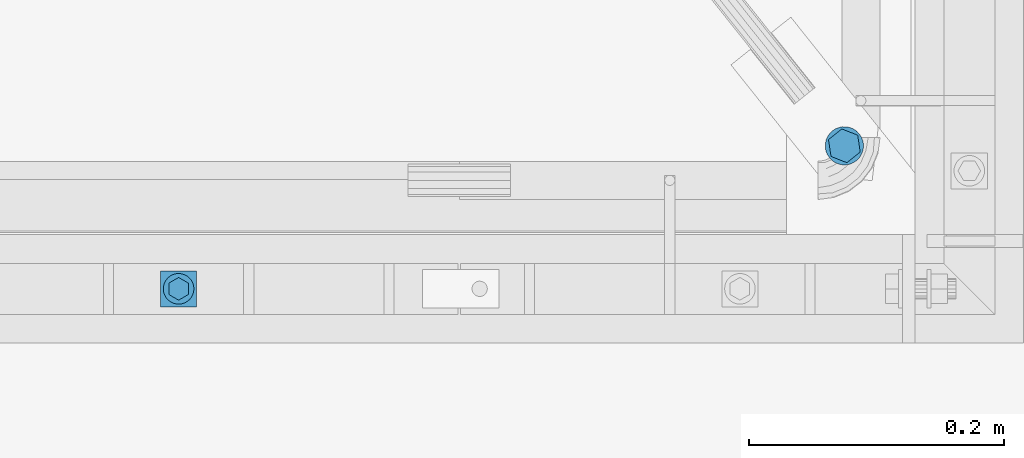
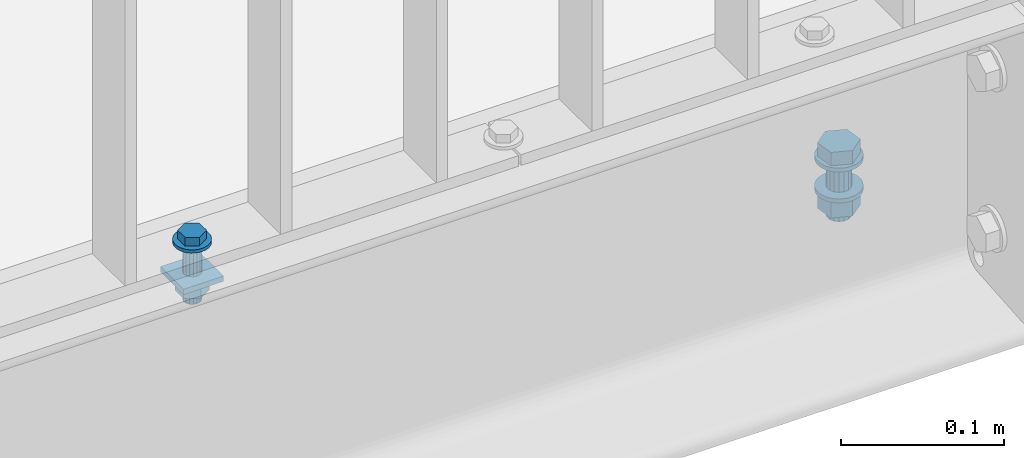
# One storey, part 102 of 145: 2 mechanical fasteners.
"""IFC2X3 building model written with IfcOpenShell, lengths in millimetres."""

import ifcopenshell
import ifcopenshell.guid

model = None  # the IFC model being written
_history = None  # IfcOwnerHistory: only IFC2X3 demands one
_inside = {}  # id of a spatial element -> (the spatial element, [elements in it])
_under = {}  # id of a project, library or spatial element -> (it, [spatial elements below it])
_declared = {}  # id of a project -> (the project, [libraries it declares])
_typed = {}  # id of a type object -> (the type object, [elements of that type])
_made_of = {}  # id of a material, layer set ... -> (it, [elements and type objects made of it])


def new_model(schema):
    """Start an empty IFC model of exactly this schema.

    Asked for "IFC4X3", IfcOpenShell would pick the latest addendum, in which some entities
    have other attributes; the version numbers below select the first issue.
    IFC2X3 requires an IfcOwnerHistory on every rooted entity: one is made here for all.
    """
    global model, _history
    if schema == "IFC4X3":
        model = ifcopenshell.file(schema_version=(4, 3, 0, 0))
    else:
        model = ifcopenshell.file(schema=schema)
    _inside.clear()
    _under.clear()
    _declared.clear()
    _typed.clear()
    _made_of.clear()
    _history = None
    if model.schema == "IFC2X3":
        org = make("IfcOrganization", Name="unknown")
        user = make(
            "IfcPersonAndOrganization",
            ThePerson=make("IfcPerson", FamilyName="unknown"),
            TheOrganization=org,
        )
        app = make(
            "IfcApplication",
            ApplicationDeveloper=org,
            Version="unknown",
            ApplicationFullName="unknown",
            ApplicationIdentifier="unknown",
        )
        _history = make(
            "IfcOwnerHistory",
            OwningUser=user,
            OwningApplication=app,
            ChangeAction="ADDED",
            CreationDate=0,
        )
    return model


def make(cls, **values):
    """One entity of the class cls with the attributes given. An attribute that is None is left unset."""
    return model.create_entity(
        cls, **{name: value for name, value in values.items() if value is not None}
    )


def entity(cls, *values):
    """Any entity or typed value of the class cls, its attributes in the order of the schema. None: left unset."""
    e = model.create_entity(cls)
    for i, value in enumerate(values):
        if value is not None:
            e[i] = value
    return e


def rooted(cls, **values):
    """An entity with a GlobalId (a new one), such as an element, a storey or a relation."""
    return make(cls, GlobalId=ifcopenshell.guid.new(), OwnerHistory=_history, **values)


def si_unit(unit_type, name, prefix=None):
    """IfcSIUnit, for example si_unit("LENGTHUNIT", "METRE", prefix="MILLI")."""
    return make("IfcSIUnit", UnitType=unit_type, Prefix=prefix, Name=name)


def converted_unit(unit_type, name, factor, base, dimensions=None, offset=None):
    """IfcConversionBasedUnit, such as the inch: factor (a typed value) times the base unit."""
    return make(
        "IfcConversionBasedUnit"
        if offset is None
        else "IfcConversionBasedUnitWithOffset",
        ConversionOffset=offset,
        Dimensions=None
        if dimensions is None
        else entity("IfcDimensionalExponents", *dimensions),
        UnitType=unit_type,
        Name=name,
        ConversionFactor=make(
            "IfcMeasureWithUnit", ValueComponent=factor, UnitComponent=base
        ),
    )


def assignment(units):
    """IfcUnitAssignment: the units of a project."""
    return None if units is None else make("IfcUnitAssignment", Units=units)


def point(xyz):
    """IfcCartesianPoint."""
    return None if xyz is None else make("IfcCartesianPoint", Coordinates=xyz)


def direction(xyz):
    """IfcDirection."""
    return None if xyz is None else make("IfcDirection", DirectionRatios=xyz)


def frame(location, z_axis=None, x_axis=None):
    """IfcAxis2Placement3D, a coordinate frame: its origin and axes. An axis left out is left unset."""
    return make(
        "IfcAxis2Placement3D",
        Location=point(location),
        Axis=direction(z_axis),
        RefDirection=direction(x_axis),
    )


def origin_with_axes():
    """The frame at (0, 0, 0) with the z axis (0, 0, 1) and the x axis (1, 0, 0) written out."""
    return frame((0.0, 0.0, 0.0), z_axis=(0.0, 0.0, 1.0), x_axis=(1.0, 0.0, 0.0))


def place(relative_to, where):
    """IfcLocalPlacement: puts the frame where relative to a parent placement (None: the world)."""
    return make(
        "IfcLocalPlacement", PlacementRelTo=relative_to, RelativePlacement=where
    )


def context(
    kind, dimensions, precision=None, world=None, true_north=None, identifier=None
):
    """IfcGeometricRepresentationContext, for example the 3D "Model" context."""
    return make(
        "IfcGeometricRepresentationContext",
        ContextIdentifier=identifier,
        ContextType=kind,
        CoordinateSpaceDimension=dimensions,
        Precision=precision,
        WorldCoordinateSystem=world,
        TrueNorth=true_north,
    )


def project(units=None, contexts=None):
    """IfcProject with its units and contexts."""
    return rooted(
        "IfcProject",
        Name="project",
        RepresentationContexts=contexts,
        UnitsInContext=assignment(units),
    )


def spatial(cls, under=None, at=None, **own):
    """A site, building, storey or space (cls), placed at a placement, below another one or the project."""
    s = rooted(cls, ObjectPlacement=at, **own)
    if under is not None:
        _under.setdefault(under.id(), (under, []))[1].append(s)
    return s


def faces_of(points, faces, orient=None, outer=None):
    """IfcFace entities. A face is a list of loops; a loop is a list of indices into points, from 0.

    orient and outer hold one flag for each loop. By default every Orientation is true, the
    first loop of a face is its IfcFaceOuterBound and the others are IfcFaceBound.
    """
    made = []
    for i, loops in enumerate(faces):
        bounds = []
        for j, loop in enumerate(loops):
            is_outer = j == 0 if outer is None else outer[i][j]
            bounds.append(
                make(
                    "IfcFaceOuterBound" if is_outer else "IfcFaceBound",
                    Bound=make("IfcPolyLoop", Polygon=[points[k] for k in loop]),
                    Orientation=True if orient is None else orient[i][j],
                )
            )
        made.append(make("IfcFace", Bounds=bounds))
    return made


def faceted_brep(points, faces, orient=None, outer=None, voids=None):
    """IfcFacetedBrep: a solid bounded by flat faces; with voids (closed shells), ...WithVoids."""
    shared = [point(p) for p in points]
    hull = make("IfcClosedShell", CfsFaces=faces_of(shared, faces, orient, outer))
    if voids is None:
        return make("IfcFacetedBrep", Outer=hull)
    return make(
        "IfcFacetedBrepWithVoids",
        Outer=hull,
        Voids=[
            make(cls, CfsFaces=faces_of(shared, fs, o, b)) for cls, fs, o, b in voids
        ],
    )


def shape(context_of_items, identifier, shape_type, items):
    """IfcShapeRepresentation: the items that make up one representation, for example the "Body"."""
    return make(
        "IfcShapeRepresentation",
        ContextOfItems=context_of_items,
        RepresentationIdentifier=identifier,
        RepresentationType=shape_type,
        Items=items,
    )


def made_of(thing, what):
    """Note that an element or type object is made of a material, layer set ...; save() writes the relation."""
    if what is not None:
        _made_of.setdefault(what.id(), (what, []))[1].append(thing)
    return thing


def element(
    cls,
    number,
    at=None,
    inside=None,
    cuts=None,
    type_object=None,
    material=None,
    context=None,
    identifier="Body",
    shape_type=None,
    held_by="IfcProductDefinitionShape",
    body=None,
    shapes=None,
    **own,
):
    """One element of the class cls, such as IfcWall. Its Tag is "e" and its number.

    at: its placement. inside: the storey or other place that contains it. cuts: it is an
    opening in that element (IfcRelVoidsElement). A single representation is given by context,
    identifier, shape_type and body (its items); several are given by shapes. held_by: the class
    of the entity that holds the representations. save() writes the other relations.
    """
    e = rooted(cls, Tag="e%d" % number, ObjectPlacement=at, **own)
    if body is not None:
        shapes = [shape(context, identifier, shape_type, body)]
    if shapes is not None:
        e.Representation = make(held_by, Representations=shapes)
    if inside is not None:
        _inside.setdefault(inside.id(), (inside, []))[1].append(e)
    if cuts is not None:
        rooted(
            "IfcRelVoidsElement", RelatingBuildingElement=cuts, RelatedOpeningElement=e
        )
    if type_object is not None:
        _typed.setdefault(type_object.id(), (type_object, []))[1].append(e)
    return made_of(e, material)


def aggregate(whole, parts):
    """IfcRelAggregates: a whole, such as a stair, and the parts it consists of."""
    return rooted("IfcRelAggregates", RelatingObject=whole, RelatedObjects=parts)


def save(model, path):
    """Write the relations noted so far, then the file.

    IfcRelAggregates (storeys below a building ...), IfcRelContainedInSpatialStructure (elements
    in a storey), IfcRelDefinesByType, IfcRelAssociatesMaterial and IfcRelDeclares: one each for
    every whole, place, type object, material and project.
    """
    for whole, parts in _under.values():
        aggregate(whole, parts)
    for where, things in _inside.values():
        rooted(
            "IfcRelContainedInSpatialStructure",
            RelatedElements=things,
            RelatingStructure=where,
        )
    for kind, things in _typed.values():
        rooted("IfcRelDefinesByType", RelatedObjects=things, RelatingType=kind)
    for what, things in _made_of.values():
        rooted("IfcRelAssociatesMaterial", RelatedObjects=things, RelatingMaterial=what)
    for by, libraries in _declared.values():
        rooted("IfcRelDeclares", RelatingContext=by, RelatedDefinitions=libraries)
    model.write(path)


model = new_model("IFC2X3")

# Units and contexts
model_context = context("Model", 3, precision=1e-09, world=origin_with_axes())
ifc_project = project(units=[si_unit("LENGTHUNIT", "METRE", prefix="MILLI"), si_unit("AREAUNIT", "SQUARE_METRE"), si_unit("VOLUMEUNIT", "CUBIC_METRE"), converted_unit("PLANEANGLEUNIT", "DEGREE", entity("IfcPlaneAngleMeasure", 0.01745329), si_unit("PLANEANGLEUNIT", "RADIAN"), dimensions=[0, 0, 0, 0, 0, 0, 0])], contexts=[model_context])

# Site, building, storey
site_placement = place(None, origin_with_axes())
site = spatial("IfcSite", under=ifc_project, at=site_placement, Name="BZ1 Grund- und Mittelschule 85716 Unterschlei?heim", CompositionType="ELEMENT")
building_placement = place(site_placement, origin_with_axes())
building = spatial("IfcBuilding", under=site, at=building_placement, Name="Struktur 1", CompositionType="ELEMENT")
storey_placement = place(building_placement, origin_with_axes())
storey = spatial("IfcBuildingStorey", under=building, at=storey_placement, Name="Default Storey", CompositionType="ELEMENT", Elevation=0.0)

# Mechanical fasteners
mechanical_fastener_1_placement = place(None, origin_with_axes())
element("IfcMechanicalFastener", 1, at=mechanical_fastener_1_placement, inside=storey, ObjectType="-", NominalDiameter=16.0, NominalLength=45.0, context=model_context, shape_type="Brep", body=[
    faceted_brep([(21524.759757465, -3062.142015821, 1433.6363644), (21524.759757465, -3062.142015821, 1436.6363644), (21522.291178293, -3063.739745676, 1436.6363644), (21522.291178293, -3063.739745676, 1433.6363644), (21519.558330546, -3064.825179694, 1436.6363644), (21519.558330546, -3064.825179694, 1433.6363644), (21516.666236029, -3065.356605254, 1436.6363644), (21516.666236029, -3065.356605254, 1433.6363644), (21513.726036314, -3065.313599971, 1436.6363644), (21513.726036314, -3065.313599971, 1433.6363644), (21510.850721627, -3064.697816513, 1436.6363644), (21510.850721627, -3064.697816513, 1433.6363644), (21508.150788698, -3063.532919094, 1436.6363644), (21508.150788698, -3063.532919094, 1433.6363644), (21505.729994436, -3061.863674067, 1436.6363644), (21505.729994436, -3061.863674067, 1433.6363644), (21503.681368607, -3059.754229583, 1436.6363644), (21503.681368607, -3059.754229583, 1433.6363644), (21502.083638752, -3057.285650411, 1436.6363644), (21502.083638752, -3057.285650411, 1433.6363644), (21500.998204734, -3054.552802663, 1436.6363644), (21500.998204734, -3054.552802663, 1433.6363644), (21500.466779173, -3051.660708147, 1436.6363644), (21500.466779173, -3051.660708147, 1433.6363644), (21500.509784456, -3048.720508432, 1436.6363644), (21500.509784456, -3048.720508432, 1433.6363644), (21501.125567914, -3045.845193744, 1436.6363644), (21501.125567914, -3045.845193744, 1433.6363644), (21502.290465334, -3043.145260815, 1436.6363644), (21502.290465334, -3043.145260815, 1433.6363644), (21503.959710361, -3040.724466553, 1436.6363644), (21503.959710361, -3040.724466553, 1433.6363644), (21506.069154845, -3038.675840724, 1436.6363644), (21506.069154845, -3038.675840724, 1433.6363644), (21508.537734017, -3037.078110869, 1436.6363644), (21508.537734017, -3037.078110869, 1433.6363644), (21511.270581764, -3035.992676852, 1436.6363644), (21511.270581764, -3035.992676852, 1433.6363644), (21514.162676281, -3035.461251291, 1436.6363644), (21514.162676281, -3035.461251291, 1433.6363644), (21517.102875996, -3035.504256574, 1436.6363644), (21517.102875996, -3035.504256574, 1433.6363644), (21519.978190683, -3036.120040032, 1436.6363644), (21519.978190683, -3036.120040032, 1433.6363644), (21522.678123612, -3037.284937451, 1436.6363644), (21522.678123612, -3037.284937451, 1433.6363644), (21525.098917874, -3038.954182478, 1436.6363644), (21525.098917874, -3038.954182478, 1433.6363644), (21527.147543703, -3041.063626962, 1436.6363644), (21527.147543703, -3041.063626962, 1433.6363644), (21528.745273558, -3043.532206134, 1436.6363644), (21528.745273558, -3043.532206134, 1433.6363644), (21529.830707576, -3046.265053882, 1436.6363644), (21529.830707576, -3046.265053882, 1433.6363644), (21530.362133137, -3049.157148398, 1436.6363644), (21530.362133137, -3049.157148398, 1433.6363644), (21530.319127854, -3052.097348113, 1436.6363644), (21530.319127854, -3052.097348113, 1433.6363644), (21529.703344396, -3054.972662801, 1436.6363644), (21529.703344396, -3054.972662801, 1433.6363644), (21528.538446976, -3057.67259573, 1436.6363644), (21528.538446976, -3057.67259573, 1433.6363644), (21526.869201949, -3060.093389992, 1436.6363644), (21526.869201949, -3060.093389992, 1433.6363644)], [[[0, 1, 2, 3]], [[3, 2, 4, 5]], [[5, 4, 6, 7]], [[7, 6, 8, 9]], [[9, 8, 10, 11]], [[11, 10, 12, 13]], [[13, 12, 14, 15]], [[15, 14, 16, 17]], [[17, 16, 18, 19]], [[19, 18, 20, 21]], [[21, 20, 22, 23]], [[23, 22, 24, 25]], [[25, 24, 26, 27]], [[27, 26, 28, 29]], [[29, 28, 30, 31]], [[31, 30, 32, 33]], [[33, 32, 34, 35]], [[35, 34, 36, 37]], [[37, 36, 38, 39]], [[39, 38, 40, 41]], [[41, 40, 42, 43]], [[43, 42, 44, 45]], [[45, 44, 46, 47]], [[47, 46, 48, 49]], [[49, 48, 50, 51]], [[51, 50, 52, 53]], [[53, 52, 54, 55]], [[55, 54, 56, 57]], [[57, 56, 58, 59]], [[59, 58, 60, 61]], [[61, 60, 62, 63]], [[63, 62, 1, 0]], [[2, 1, 62, 60, 58, 56, 54, 52, 50, 48, 46, 44, 42, 40, 38, 36, 34, 32, 30, 28, 26, 24, 22, 20, 18, 16, 14, 12, 10, 8, 6, 4]], [[63, 0, 3, 5, 7, 9, 11, 13, 15, 17, 19, 21, 23, 25, 27, 29, 31, 33, 35, 37, 39, 41, 43, 45, 47, 49, 51, 53, 55, 57, 59, 61]]]),
    faceted_brep([(21502.966957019, -3045.515014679, 1446.6363644), (21502.966957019, -3045.515014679, 1436.6363644), (21504.952453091, -3058.741821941, 1436.6363644), (21504.952453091, -3058.741821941, 1446.6363644), (21517.399952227, -3063.635735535, 1436.6363644), (21517.399952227, -3063.635735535, 1446.6363644), (21527.861955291, -3055.302841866, 1436.6363644), (21527.861955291, -3055.302841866, 1446.6363644), (21525.876459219, -3042.076034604, 1436.6363644), (21525.876459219, -3042.076034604, 1446.6363644), (21513.428960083, -3037.18212101, 1436.6363644), (21513.428960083, -3037.18212101, 1446.6363644)], [[[0, 1, 2, 3]], [[3, 2, 4, 5]], [[5, 4, 6, 7]], [[7, 6, 8, 9]], [[9, 8, 10, 11]], [[11, 10, 1, 0]], [[3, 5, 7, 9, 11, 0]], [[2, 1, 10, 8, 6, 4]]]),
    faceted_brep([(21520.398616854, -3056.666574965, 1413.6363644), (21520.398616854, -3056.666574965, 1433.6363644), (21517.624522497, -3058.097595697, 1433.6363644), (21517.624522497, -3058.097595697, 1413.6363644), (21514.513965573, -3058.358086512, 1433.6363644), (21514.513965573, -3058.358086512, 1413.6363644), (21511.540500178, -3057.408390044, 1433.6363644), (21511.540500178, -3057.408390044, 1413.6363644), (21509.156809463, -3055.393088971, 1433.6363644), (21509.156809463, -3055.393088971, 1413.6363644), (21507.72578873, -3052.618994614, 1433.6363644), (21507.72578873, -3052.618994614, 1413.6363644), (21507.465297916, -3049.508437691, 1433.6363644), (21507.465297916, -3049.508437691, 1413.6363644), (21508.414994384, -3046.534972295, 1433.6363644), (21508.414994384, -3046.534972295, 1413.6363644), (21510.430295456, -3044.15128158, 1433.6363644), (21510.430295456, -3044.15128158, 1413.6363644), (21513.204389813, -3042.720260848, 1433.6363644), (21513.204389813, -3042.720260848, 1413.6363644), (21516.314946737, -3042.459770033, 1433.6363644), (21516.314946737, -3042.459770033, 1413.6363644), (21519.288412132, -3043.409466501, 1433.6363644), (21519.288412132, -3043.409466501, 1413.6363644), (21521.672102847, -3045.424767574, 1433.6363644), (21521.672102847, -3045.424767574, 1413.6363644), (21523.10312358, -3048.198861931, 1433.6363644), (21523.10312358, -3048.198861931, 1413.6363644), (21523.363614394, -3051.309418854, 1433.6363644), (21523.363614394, -3051.309418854, 1413.6363644), (21522.413917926, -3054.28288425, 1433.6363644), (21522.413917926, -3054.28288425, 1413.6363644)], [[[0, 1, 2, 3]], [[3, 2, 4, 5]], [[5, 4, 6, 7]], [[7, 6, 8, 9]], [[9, 8, 10, 11]], [[11, 10, 12, 13]], [[13, 12, 14, 15]], [[15, 14, 16, 17]], [[17, 16, 18, 19]], [[19, 18, 20, 21]], [[21, 20, 22, 23]], [[23, 22, 24, 25]], [[25, 24, 26, 27]], [[27, 26, 28, 29]], [[29, 28, 30, 31]], [[31, 30, 1, 0]], [[2, 1, 30, 28, 26, 24, 22, 20, 18, 16, 14, 12, 10, 8, 6, 4]], [[31, 0, 3, 5, 7, 9, 11, 13, 15, 17, 19, 21, 23, 25, 27, 29]]]),
    faceted_brep([(21524.759757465, -3062.142015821, 1410.6363644), (21524.759757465, -3062.142015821, 1413.6363644), (21522.291178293, -3063.739745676, 1413.6363644), (21522.291178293, -3063.739745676, 1410.6363644), (21519.558330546, -3064.825179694, 1413.6363644), (21519.558330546, -3064.825179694, 1410.6363644), (21516.666236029, -3065.356605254, 1413.6363644), (21516.666236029, -3065.356605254, 1410.6363644), (21513.726036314, -3065.313599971, 1413.6363644), (21513.726036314, -3065.313599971, 1410.6363644), (21510.850721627, -3064.697816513, 1413.6363644), (21510.850721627, -3064.697816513, 1410.6363644), (21508.150788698, -3063.532919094, 1413.6363644), (21508.150788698, -3063.532919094, 1410.6363644), (21505.729994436, -3061.863674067, 1413.6363644), (21505.729994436, -3061.863674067, 1410.6363644), (21503.681368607, -3059.754229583, 1413.6363644), (21503.681368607, -3059.754229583, 1410.6363644), (21502.083638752, -3057.285650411, 1413.6363644), (21502.083638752, -3057.285650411, 1410.6363644), (21500.998204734, -3054.552802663, 1413.6363644), (21500.998204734, -3054.552802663, 1410.6363644), (21500.466779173, -3051.660708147, 1413.6363644), (21500.466779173, -3051.660708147, 1410.6363644), (21500.509784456, -3048.720508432, 1413.6363644), (21500.509784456, -3048.720508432, 1410.6363644), (21501.125567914, -3045.845193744, 1413.6363644), (21501.125567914, -3045.845193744, 1410.6363644), (21502.290465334, -3043.145260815, 1413.6363644), (21502.290465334, -3043.145260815, 1410.6363644), (21503.959710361, -3040.724466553, 1413.6363644), (21503.959710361, -3040.724466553, 1410.6363644), (21506.069154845, -3038.675840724, 1413.6363644), (21506.069154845, -3038.675840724, 1410.6363644), (21508.537734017, -3037.078110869, 1413.6363644), (21508.537734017, -3037.078110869, 1410.6363644), (21511.270581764, -3035.992676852, 1413.6363644), (21511.270581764, -3035.992676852, 1410.6363644), (21514.162676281, -3035.461251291, 1413.6363644), (21514.162676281, -3035.461251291, 1410.6363644), (21517.102875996, -3035.504256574, 1413.6363644), (21517.102875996, -3035.504256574, 1410.6363644), (21519.978190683, -3036.120040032, 1413.6363644), (21519.978190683, -3036.120040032, 1410.6363644), (21522.678123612, -3037.284937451, 1413.6363644), (21522.678123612, -3037.284937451, 1410.6363644), (21525.098917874, -3038.954182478, 1413.6363644), (21525.098917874, -3038.954182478, 1410.6363644), (21527.147543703, -3041.063626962, 1413.6363644), (21527.147543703, -3041.063626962, 1410.6363644), (21528.745273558, -3043.532206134, 1413.6363644), (21528.745273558, -3043.532206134, 1410.6363644), (21529.830707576, -3046.265053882, 1413.6363644), (21529.830707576, -3046.265053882, 1410.6363644), (21530.362133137, -3049.157148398, 1413.6363644), (21530.362133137, -3049.157148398, 1410.6363644), (21530.319127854, -3052.097348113, 1413.6363644), (21530.319127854, -3052.097348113, 1410.6363644), (21529.703344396, -3054.972662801, 1413.6363644), (21529.703344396, -3054.972662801, 1410.6363644), (21528.538446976, -3057.67259573, 1413.6363644), (21528.538446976, -3057.67259573, 1410.6363644), (21526.869201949, -3060.093389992, 1413.6363644), (21526.869201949, -3060.093389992, 1410.6363644)], [[[0, 1, 2, 3]], [[3, 2, 4, 5]], [[5, 4, 6, 7]], [[7, 6, 8, 9]], [[9, 8, 10, 11]], [[11, 10, 12, 13]], [[13, 12, 14, 15]], [[15, 14, 16, 17]], [[17, 16, 18, 19]], [[19, 18, 20, 21]], [[21, 20, 22, 23]], [[23, 22, 24, 25]], [[25, 24, 26, 27]], [[27, 26, 28, 29]], [[29, 28, 30, 31]], [[31, 30, 32, 33]], [[33, 32, 34, 35]], [[35, 34, 36, 37]], [[37, 36, 38, 39]], [[39, 38, 40, 41]], [[41, 40, 42, 43]], [[43, 42, 44, 45]], [[45, 44, 46, 47]], [[47, 46, 48, 49]], [[49, 48, 50, 51]], [[51, 50, 52, 53]], [[53, 52, 54, 55]], [[55, 54, 56, 57]], [[57, 56, 58, 59]], [[59, 58, 60, 61]], [[61, 60, 62, 63]], [[63, 62, 1, 0]], [[2, 1, 62, 60, 58, 56, 54, 52, 50, 48, 46, 44, 42, 40, 38, 36, 34, 32, 30, 28, 26, 24, 22, 20, 18, 16, 14, 12, 10, 8, 6, 4]], [[63, 0, 3, 5, 7, 9, 11, 13, 15, 17, 19, 21, 23, 25, 27, 29, 31, 33, 35, 37, 39, 41, 43, 45, 47, 49, 51, 53, 55, 57, 59, 61]]]),
    faceted_brep([(21502.966957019, -3045.515014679, 1410.6363644), (21502.966957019, -3045.515014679, 1397.6363644), (21504.952453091, -3058.741821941, 1397.6363644), (21504.952453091, -3058.741821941, 1410.6363644), (21517.399952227, -3063.635735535, 1397.6363644), (21517.399952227, -3063.635735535, 1410.6363644), (21527.861955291, -3055.302841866, 1397.6363644), (21527.861955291, -3055.302841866, 1410.6363644), (21525.876459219, -3042.076034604, 1397.6363644), (21525.876459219, -3042.076034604, 1410.6363644), (21513.428960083, -3037.18212101, 1397.6363644), (21513.428960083, -3037.18212101, 1410.6363644)], [[[0, 1, 2, 3]], [[3, 2, 4, 5]], [[5, 4, 6, 7]], [[7, 6, 8, 9]], [[9, 8, 10, 11]], [[11, 10, 1, 0]], [[3, 5, 7, 9, 11, 0]], [[2, 1, 10, 8, 6, 4]]]),
    faceted_brep([(21520.398616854, -3056.666574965, 1391.6363644), (21520.398616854, -3056.666574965, 1397.6363644), (21517.624522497, -3058.097595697, 1397.6363644), (21517.624522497, -3058.097595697, 1391.6363644), (21514.513965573, -3058.358086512, 1397.6363644), (21514.513965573, -3058.358086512, 1391.6363644), (21511.540500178, -3057.408390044, 1397.6363644), (21511.540500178, -3057.408390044, 1391.6363644), (21509.156809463, -3055.393088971, 1397.6363644), (21509.156809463, -3055.393088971, 1391.6363644), (21507.72578873, -3052.618994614, 1397.6363644), (21507.72578873, -3052.618994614, 1391.6363644), (21507.465297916, -3049.508437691, 1397.6363644), (21507.465297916, -3049.508437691, 1391.6363644), (21508.414994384, -3046.534972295, 1397.6363644), (21508.414994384, -3046.534972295, 1391.6363644), (21510.430295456, -3044.15128158, 1397.6363644), (21510.430295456, -3044.15128158, 1391.6363644), (21513.204389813, -3042.720260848, 1397.6363644), (21513.204389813, -3042.720260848, 1391.6363644), (21516.314946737, -3042.459770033, 1397.6363644), (21516.314946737, -3042.459770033, 1391.6363644), (21519.288412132, -3043.409466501, 1397.6363644), (21519.288412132, -3043.409466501, 1391.6363644), (21521.672102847, -3045.424767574, 1397.6363644), (21521.672102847, -3045.424767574, 1391.6363644), (21523.10312358, -3048.198861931, 1397.6363644), (21523.10312358, -3048.198861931, 1391.6363644), (21523.363614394, -3051.309418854, 1397.6363644), (21523.363614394, -3051.309418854, 1391.6363644), (21522.413917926, -3054.28288425, 1397.6363644), (21522.413917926, -3054.28288425, 1391.6363644)], [[[0, 1, 2, 3]], [[3, 2, 4, 5]], [[5, 4, 6, 7]], [[7, 6, 8, 9]], [[9, 8, 10, 11]], [[11, 10, 12, 13]], [[13, 12, 14, 15]], [[15, 14, 16, 17]], [[17, 16, 18, 19]], [[19, 18, 20, 21]], [[21, 20, 22, 23]], [[23, 22, 24, 25]], [[25, 24, 26, 27]], [[27, 26, 28, 29]], [[29, 28, 30, 31]], [[31, 30, 1, 0]], [[2, 1, 30, 28, 26, 24, 22, 20, 18, 16, 14, 12, 10, 8, 6, 4]], [[31, 0, 3, 5, 7, 9, 11, 13, 15, 17, 19, 21, 23, 25, 27, 29]]]),
])
mechanical_fastener_2_placement = place(None, origin_with_axes())
element("IfcMechanicalFastener", 2, at=mechanical_fastener_2_placement, inside=storey, ObjectType="-", NominalDiameter=12.0, NominalLength=45.0, context=model_context, shape_type="Brep", body=[
    faceted_brep([(20981.545893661, -3162.502, 1624.136364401), (20981.545893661, -3162.502, 1621.636364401), (20981.776470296, -3164.843083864, 1621.636364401), (20981.776470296, -3164.843083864, 1624.136364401), (20982.459339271, -3167.094201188, 1621.636364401), (20982.459339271, -3167.094201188, 1624.136364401), (20983.568258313, -3169.168842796, 1621.636364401), (20983.568258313, -3169.168842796, 1624.136364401), (20985.060612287, -3170.987281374, 1621.636364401), (20985.060612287, -3170.987281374, 1624.136364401), (20986.879050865, -3172.479635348, 1621.636364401), (20986.879050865, -3172.479635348, 1624.136364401), (20988.953692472, -3173.58855439, 1621.636364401), (20988.953692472, -3173.58855439, 1624.136364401), (20991.204809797, -3174.271423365, 1621.636364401), (20991.204809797, -3174.271423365, 1624.136364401), (20993.545893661, -3174.502, 1621.636364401), (20993.545893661, -3174.502, 1624.136364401), (20995.886977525, -3174.271423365, 1621.636364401), (20995.886977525, -3174.271423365, 1624.136364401), (20998.138094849, -3173.58855439, 1621.636364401), (20998.138094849, -3173.58855439, 1624.136364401), (21000.212736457, -3172.479635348, 1621.636364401), (21000.212736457, -3172.479635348, 1624.136364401), (21002.031175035, -3170.987281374, 1621.636364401), (21002.031175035, -3170.987281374, 1624.136364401), (21003.523529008, -3169.168842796, 1621.636364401), (21003.523529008, -3169.168842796, 1624.136364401), (21004.632448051, -3167.094201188, 1621.636364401), (21004.632448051, -3167.094201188, 1624.136364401), (21005.315317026, -3164.843083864, 1621.636364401), (21005.315317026, -3164.843083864, 1624.136364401), (21005.545893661, -3162.502, 1621.636364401), (21005.545893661, -3162.502, 1624.136364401), (21005.315317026, -3160.160916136, 1621.636364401), (21005.315317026, -3160.160916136, 1624.136364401), (21004.632448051, -3157.909798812, 1621.636364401), (21004.632448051, -3157.909798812, 1624.136364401), (21003.523529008, -3155.835157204, 1621.636364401), (21003.523529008, -3155.835157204, 1624.136364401), (21002.031175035, -3154.016718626, 1621.636364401), (21002.031175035, -3154.016718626, 1624.136364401), (21000.212736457, -3152.524364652, 1621.636364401), (21000.212736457, -3152.524364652, 1624.136364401), (20998.138094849, -3151.41544561, 1621.636364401), (20998.138094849, -3151.41544561, 1624.136364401), (20995.886977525, -3150.732576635, 1621.636364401), (20995.886977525, -3150.732576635, 1624.136364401), (20993.545893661, -3150.502, 1621.636364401), (20993.545893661, -3150.502, 1624.136364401), (20991.204809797, -3150.732576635, 1621.636364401), (20991.204809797, -3150.732576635, 1624.136364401), (20988.953692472, -3151.41544561, 1621.636364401), (20988.953692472, -3151.41544561, 1624.136364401), (20986.879050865, -3152.524364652, 1621.636364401), (20986.879050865, -3152.524364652, 1624.136364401), (20985.060612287, -3154.016718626, 1621.636364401), (20985.060612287, -3154.016718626, 1624.136364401), (20983.568258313, -3155.835157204, 1621.636364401), (20983.568258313, -3155.835157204, 1624.136364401), (20982.459339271, -3157.909798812, 1621.636364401), (20982.459339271, -3157.909798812, 1624.136364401), (20981.776470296, -3160.160916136, 1621.636364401), (20981.776470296, -3160.160916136, 1624.136364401)], [[[0, 1, 2, 3]], [[3, 2, 4, 5]], [[5, 4, 6, 7]], [[7, 6, 8, 9]], [[9, 8, 10, 11]], [[11, 10, 12, 13]], [[13, 12, 14, 15]], [[15, 14, 16, 17]], [[17, 16, 18, 19]], [[19, 18, 20, 21]], [[21, 20, 22, 23]], [[23, 22, 24, 25]], [[25, 24, 26, 27]], [[27, 26, 28, 29]], [[29, 28, 30, 31]], [[31, 30, 32, 33]], [[33, 32, 34, 35]], [[35, 34, 36, 37]], [[37, 36, 38, 39]], [[39, 38, 40, 41]], [[41, 40, 42, 43]], [[43, 42, 44, 45]], [[45, 44, 46, 47]], [[47, 46, 48, 49]], [[49, 48, 50, 51]], [[51, 50, 52, 53]], [[53, 52, 54, 55]], [[55, 54, 56, 57]], [[57, 56, 58, 59]], [[59, 58, 60, 61]], [[61, 60, 62, 63]], [[63, 62, 1, 0]], [[0, 3, 5, 7, 9, 11, 13, 15, 17, 19, 21, 23, 25, 27, 29, 31, 33, 35, 37, 39, 41, 43, 45, 47, 49, 51, 53, 55, 57, 59, 61, 63]], [[1, 62, 60, 58, 56, 54, 52, 50, 48, 46, 44, 42, 40, 38, 36, 34, 32, 30, 28, 26, 24, 22, 20, 18, 16, 14, 12, 10, 8, 6, 4, 2]]]),
    faceted_brep([(21001.240529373, -3166.9445, 1624.136364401), (21001.240529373, -3166.9445, 1630.536364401), (20993.545893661, -3171.387, 1630.536364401), (20993.545893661, -3171.387, 1624.136364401), (20985.851257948, -3166.9445, 1630.536364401), (20985.851257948, -3166.9445, 1624.136364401), (20985.851257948, -3158.0595, 1630.536364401), (20985.851257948, -3158.0595, 1624.136364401), (20993.545893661, -3153.617, 1630.536364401), (20993.545893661, -3153.617, 1624.136364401), (21001.240529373, -3158.0595, 1630.536364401), (21001.240529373, -3158.0595, 1624.136364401)], [[[0, 1, 2, 3]], [[3, 2, 4, 5]], [[5, 4, 6, 7]], [[7, 6, 8, 9]], [[9, 8, 10, 11]], [[11, 10, 1, 0]], [[4, 2, 1, 10, 8, 6]], [[0, 3, 5, 7, 9, 11]]]),
    faceted_brep([(20987.545893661, -3162.502, 1621.636364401), (20987.545893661, -3162.502, 1599.833658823), (20988.002616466, -3164.798100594, 1599.833658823), (20988.002616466, -3164.798100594, 1621.636364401), (20989.303252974, -3166.744640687, 1599.833658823), (20989.303252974, -3166.744640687, 1621.636364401), (20991.249793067, -3168.045277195, 1599.833658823), (20991.249793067, -3168.045277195, 1621.636364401), (20993.545893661, -3168.502, 1599.833658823), (20993.545893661, -3168.502, 1621.636364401), (20995.841994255, -3168.045277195, 1599.833658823), (20995.841994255, -3168.045277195, 1621.636364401), (20997.788534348, -3166.744640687, 1599.833658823), (20997.788534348, -3166.744640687, 1621.636364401), (20999.089170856, -3164.798100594, 1599.833658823), (20999.089170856, -3164.798100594, 1621.636364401), (20999.545893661, -3162.502, 1599.833658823), (20999.545893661, -3162.502, 1621.636364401), (20999.089170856, -3160.205899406, 1599.833658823), (20999.089170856, -3160.205899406, 1621.636364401), (20997.788534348, -3158.259359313, 1599.833658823), (20997.788534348, -3158.259359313, 1621.636364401), (20995.841994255, -3156.958722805, 1599.833658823), (20995.841994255, -3156.958722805, 1621.636364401), (20993.545893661, -3156.502, 1599.833658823), (20993.545893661, -3156.502, 1621.636364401), (20991.249793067, -3156.958722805, 1599.833658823), (20991.249793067, -3156.958722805, 1621.636364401), (20989.303252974, -3158.259359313, 1599.833658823), (20989.303252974, -3158.259359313, 1621.636364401), (20988.002616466, -3160.205899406, 1599.833658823), (20988.002616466, -3160.205899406, 1621.636364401)], [[[0, 1, 2, 3]], [[3, 2, 4, 5]], [[5, 4, 6, 7]], [[7, 6, 8, 9]], [[9, 8, 10, 11]], [[11, 10, 12, 13]], [[13, 12, 14, 15]], [[15, 14, 16, 17]], [[17, 16, 18, 19]], [[19, 18, 20, 21]], [[21, 20, 22, 23]], [[23, 22, 24, 25]], [[25, 24, 26, 27]], [[27, 26, 28, 29]], [[29, 28, 30, 31]], [[31, 30, 1, 0]], [[0, 3, 5, 7, 9, 11, 13, 15, 17, 19, 21, 23, 25, 27, 29, 31]], [[1, 30, 28, 26, 24, 22, 20, 18, 16, 14, 12, 10, 8, 6, 4, 2]]]),
    faceted_brep([(21007.688029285, -3176.644135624, 1595.833658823), (21007.688029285, -3176.644135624, 1599.833658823), (20979.403758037, -3176.644135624, 1599.833658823), (20979.403758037, -3176.644135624, 1595.833658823), (20979.403758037, -3148.359864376, 1599.833658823), (20979.403758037, -3148.359864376, 1595.833658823), (21007.688029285, -3148.359864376, 1599.833658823), (21007.688029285, -3148.359864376, 1595.833658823)], [[[0, 1, 2, 3]], [[3, 2, 4, 5]], [[5, 4, 6, 7]], [[7, 6, 1, 0]], [[4, 2, 1, 6]], [[0, 3, 5, 7]]]),
    faceted_brep([(21002.682461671, -3167.777, 1585.833658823), (21002.682461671, -3167.777, 1595.833658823), (20993.545893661, -3173.052, 1595.833658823), (20993.545893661, -3173.052, 1585.833658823), (20984.409325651, -3167.777, 1595.833658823), (20984.409325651, -3167.777, 1585.833658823), (20984.409325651, -3157.227, 1595.833658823), (20984.409325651, -3157.227, 1585.833658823), (20993.545893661, -3151.952, 1595.833658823), (20993.545893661, -3151.952, 1585.833658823), (21002.682461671, -3157.227, 1595.833658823), (21002.682461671, -3157.227, 1585.833658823)], [[[0, 1, 2, 3]], [[3, 2, 4, 5]], [[5, 4, 6, 7]], [[7, 6, 8, 9]], [[9, 8, 10, 11]], [[11, 10, 1, 0]], [[4, 2, 1, 10, 8, 6]], [[0, 3, 5, 7, 9, 11]]]),
    faceted_brep([(20987.545893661, -3162.502, 1585.833658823), (20987.545893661, -3162.502, 1579.136364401), (20988.002616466, -3164.798100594, 1579.136364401), (20988.002616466, -3164.798100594, 1585.833658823), (20989.303252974, -3166.744640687, 1579.136364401), (20989.303252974, -3166.744640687, 1585.833658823), (20991.249793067, -3168.045277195, 1579.136364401), (20991.249793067, -3168.045277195, 1585.833658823), (20993.545893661, -3168.502, 1579.136364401), (20993.545893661, -3168.502, 1585.833658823), (20995.841994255, -3168.045277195, 1579.136364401), (20995.841994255, -3168.045277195, 1585.833658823), (20997.788534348, -3166.744640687, 1579.136364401), (20997.788534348, -3166.744640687, 1585.833658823), (20999.089170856, -3164.798100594, 1579.136364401), (20999.089170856, -3164.798100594, 1585.833658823), (20999.545893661, -3162.502, 1579.136364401), (20999.545893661, -3162.502, 1585.833658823), (20999.089170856, -3160.205899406, 1579.136364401), (20999.089170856, -3160.205899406, 1585.833658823), (20997.788534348, -3158.259359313, 1579.136364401), (20997.788534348, -3158.259359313, 1585.833658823), (20995.841994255, -3156.958722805, 1579.136364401), (20995.841994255, -3156.958722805, 1585.833658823), (20993.545893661, -3156.502, 1579.136364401), (20993.545893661, -3156.502, 1585.833658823), (20991.249793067, -3156.958722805, 1579.136364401), (20991.249793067, -3156.958722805, 1585.833658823), (20989.303252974, -3158.259359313, 1579.136364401), (20989.303252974, -3158.259359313, 1585.833658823), (20988.002616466, -3160.205899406, 1579.136364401), (20988.002616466, -3160.205899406, 1585.833658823)], [[[0, 1, 2, 3]], [[3, 2, 4, 5]], [[5, 4, 6, 7]], [[7, 6, 8, 9]], [[9, 8, 10, 11]], [[11, 10, 12, 13]], [[13, 12, 14, 15]], [[15, 14, 16, 17]], [[17, 16, 18, 19]], [[19, 18, 20, 21]], [[21, 20, 22, 23]], [[23, 22, 24, 25]], [[25, 24, 26, 27]], [[27, 26, 28, 29]], [[29, 28, 30, 31]], [[31, 30, 1, 0]], [[0, 3, 5, 7, 9, 11, 13, 15, 17, 19, 21, 23, 25, 27, 29, 31]], [[1, 30, 28, 26, 24, 22, 20, 18, 16, 14, 12, 10, 8, 6, 4, 2]]]),
])

save(model, "model.ifc")
